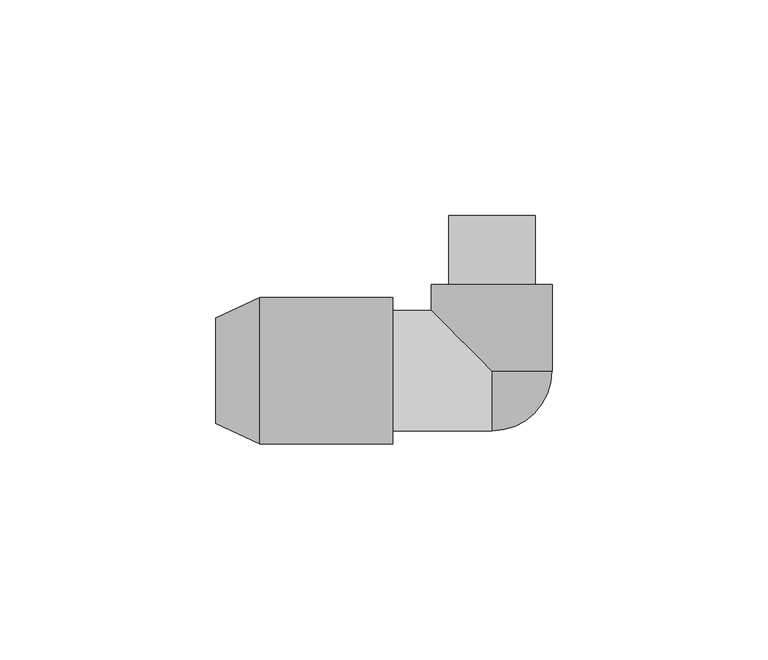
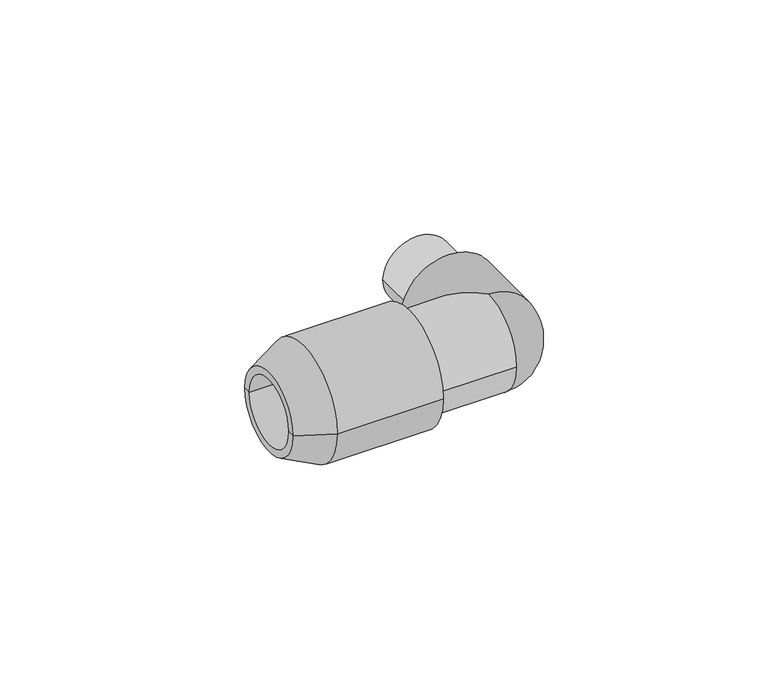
"""IFC4 building model written with IfcOpenShell, lengths in millimetres: pipe fitting geometry."""

from ifc_helpers import new_model, si_unit, point, frame, origin, origin_2d, place, context, project, spatial, polyline, circle_curve, ellipse_curve, trimmed, segment, composite_curve, outline, extrude, source, transform, mapped, element, save
from ifc_brep_helpers import plane_surface, cylinder_surface, revolved_surface, advanced_brep


def pipe_fitting_1bc5d1c2(model_context):
    return source(origin(), model_context, "Body", "SolidModel", [
        advanced_brep(
        [(-23.0, -17.0, 0.0), (-23.0, 17.0, 0.0), (-23.0, 0.0, 0.0), (-53.8135921, -17.0, 0.0), (-53.8135921, 17.0, 0.0), (-64.0, -12.25, 0.0), (-64.0, 12.25, 0.0), (-35.0, -10.0, 0.0), (-35.0, 10.0, 0.0), (-64.0, 10.0, 0.0), (-64.0, -10.0, 0.0), (-35.0, 0.0, 0.0)],
        [
            (0, 1, circle_curve(frame((-23.0, 0.0, 0.0), z_axis=(1.0, 0.0, 0.0), x_axis=(0.0, 1.0, 0.0)), 17.0)),
            (1, 2),
            (2, 0),
            (1, 0, circle_curve(frame((-23.0, 0.0, 0.0), z_axis=(1.0, 0.0, 0.0), x_axis=(0.0, 1.0, 0.0)), 17.0)),
            (3, 4, circle_curve(frame((-53.8135921, 0.0, 0.0), z_axis=(1.0, 0.0, 0.0), x_axis=(0.0, 1.0, 0.0)), 17.0)),
            (4, 1),
            (0, 3),
            (4, 3, circle_curve(frame((-53.8135921, 0.0, 0.0), z_axis=(1.0, 0.0, 0.0), x_axis=(0.0, 1.0, 0.0)), 17.0)),
            (5, 6, circle_curve(frame((-64.0, 0.0, 0.0), z_axis=(1.0, 0.0, 0.0), x_axis=(0.0, 1.0, 0.0)), 12.25)),
            (6, 4),
            (3, 5),
            (6, 5, circle_curve(frame((-64.0, 0.0, 0.0), z_axis=(1.0, 0.0, 0.0), x_axis=(0.0, 1.0, 0.0)), 12.25)),
            (7, 8, circle_curve(frame((-35.0, 0.0, 0.0), z_axis=(1.0, 0.0, 0.0), x_axis=(0.0, 1.0, 0.0)), 10.0)),
            (8, 9),
            (9, 10, circle_curve(frame((-64.0, 0.0, 0.0), z_axis=(-1.0, 0.0, 0.0), x_axis=(0.0, 1.0, 0.0)), 10.0)),
            (10, 7),
            (8, 7, circle_curve(frame((-35.0, 0.0, 0.0), z_axis=(1.0, 0.0, 0.0), x_axis=(0.0, 1.0, 0.0)), 10.0)),
            (10, 9, circle_curve(frame((-64.0, 0.0, 0.0), z_axis=(-1.0, 0.0, 0.0), x_axis=(0.0, 1.0, 0.0)), 10.0)),
            (11, 8),
            (7, 11),
            (9, 6),
            (5, 10),
        ],
        [
            plane_surface(frame((-23.0, 0.0, 0.0), z_axis=(1.0, 0.0, 0.0), x_axis=(0.0, 1.0, 0.0))),
            cylinder_surface(frame((-74.0, 0.0, 0.0), z_axis=(-1.0, 0.0, 0.0), x_axis=(0.0, 1.0, 0.0)), 17.0),
            revolved_surface(polyline([(-53.8135921, 17.0, 0.0), (-64.0, 12.25, 0.0)]), (-74.0, 0.0, 0.0), (-1.0, 0.0, 0.0)),
            revolved_surface(polyline([(-64.0, 10.0, 0.0), (-35.0, 10.0, 0.0)]), (-74.0, 0.0, 0.0), (-1.0, 0.0, 0.0)),
            plane_surface(frame((-35.0, 0.0, 0.0), z_axis=(-1.0, 0.0, 0.0), x_axis=(0.0, 1.0, 0.0))),
            plane_surface(frame((-64.0, 0.0, 0.0), z_axis=(-1.0, 0.0, 0.0), x_axis=(0.0, 1.0, 0.0))),
        ],
        [
            (0, [[1, 2, 3]]),
            (0, [[4, -3, -2]]),
            (1, [[5, 6, -1, 7]]),
            (1, [[8, -7, -4, -6]]),
            (2, [[9, 10, -5, 11]]),
            (2, [[12, -11, -8, -10]]),
            (3, [[13, 14, 15, 16]]),
            (3, [[17, -16, 18, -14]]),
            (4, [[19, -13, 20]]),
            (4, [[-20, -17, -19]]),
            (5, [[-15, 21, -9, 22]]),
            (5, [[-18, -22, -12, -21]]),
        ],
    ),
        extrude(outline(composite_curve([segment(trimmed(circle_curve(origin_2d(), 10.0), [point((0.0, 10.0))], [point((0.0, -10.0))], False, "CARTESIAN"), True, "CONTINUOUS"), segment(trimmed(circle_curve(origin_2d(), 10.0), [point((0.0, -10.0))], [point((0.0, 10.0))], False, "CARTESIAN"), True, "CONTINUOUS")], self_intersect=False)), frame((0.0, 20.0, 0.0), z_axis=(0.0, 1.0, 0.0), x_axis=(0.0, 0.0, 1.0)), (0.0, 0.0, 1.0), 16.0),
        advanced_brep(
        [(-14.0, 20.0, 0.0), (14.0, 20.0, 0.0), (-14.0, 14.0, 0.0), (0.0, 0.0, 14.0), (14.0, 0.0, 0.0), (0.0, 0.0, -14.0), (-23.0, 14.0, 0.0), (-23.0, -14.0, 0.0), (0.0, -14.0, 0.0)],
        [
            (0, 1, circle_curve(frame((0.0, 20.0, 0.0), z_axis=(0.0, 1.0, 0.0), x_axis=(1.0, 0.0, 0.0)), 14.0)),
            (1, 0, circle_curve(frame((0.0, 20.0, 0.0), z_axis=(0.0, 1.0, 0.0), x_axis=(1.0, 0.0, 0.0)), 14.0)),
            (0, 2),
            (2, 3, ellipse_curve(frame((0.0, 0.0, 0.0), z_axis=(0.7071067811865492, 0.7071067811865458, 0.0), x_axis=(-0.7071067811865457, 0.7071067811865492, 0.0)), 19.7989899, 14.0)),
            (3, 4, circle_curve(frame((0.0, 0.0, 0.0), z_axis=(0.0, 1.0, 0.0), x_axis=(1.0, 0.0, 0.0)), 14.0)),
            (4, 1),
            (4, 5, circle_curve(frame((0.0, 0.0, 0.0), z_axis=(0.0, 1.0, 0.0), x_axis=(1.0, 0.0, 0.0)), 14.0)),
            (5, 2, ellipse_curve(frame((0.0, 0.0, 0.0), z_axis=(0.7071067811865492, 0.7071067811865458, 0.0), x_axis=(-0.7071067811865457, 0.7071067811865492, 0.0)), 19.7989899, 14.0)),
            (6, 7, circle_curve(frame((-23.0, 0.0, 0.0), z_axis=(-1.0, 0.0, 0.0), x_axis=(0.0, -1.0, 0.0)), 14.0)),
            (7, 6, circle_curve(frame((-23.0, 0.0, 0.0), z_axis=(-1.0, 0.0, 0.0), x_axis=(0.0, -1.0, 0.0)), 14.0)),
            (7, 8),
            (8, 3, circle_curve(frame((0.0, 0.0, 0.0), z_axis=(-1.0, 0.0, 0.0), x_axis=(0.0, -1.0, 0.0)), 14.0)),
            (2, 6),
            (5, 8, circle_curve(frame((0.0, 0.0, 0.0), z_axis=(-1.0, 0.0, 0.0), x_axis=(0.0, -1.0, 0.0)), 14.0)),
        ],
        [
            plane_surface(frame((0.0, 20.0, 0.0), z_axis=(0.0, 1.0, 0.0), x_axis=(0.0, 0.0, 1.0))),
            cylinder_surface(frame((0.0, 20.0, 0.0), z_axis=(0.0, 1.0, 0.0), x_axis=(1.0, 0.0, 0.0)), 14.0),
            plane_surface(frame((-23.0, 0.0, 0.0), z_axis=(-1.0, 0.0, 0.0), x_axis=(0.0, 0.0, 1.0))),
            cylinder_surface(frame((0.0, 0.0, 0.0), z_axis=(1.0, 0.0, 0.0), x_axis=(0.0, -1.0, 0.0)), 14.0),
            revolved_surface(trimmed(ellipse_curve(frame((0.0, 0.0, 0.0), z_axis=(0.0, -1.0, 0.0), x_axis=(1.0, 0.0, 0.0)), 14.0, 14.0), [point((0.0, 0.0, -14.0))], [point((0.0, 0.0, 14.0))], True, "CARTESIAN"), (0.0, 0.0, 35.7080973), (0.0, 0.0, 1.0)),
        ],
        [
            (0, [[1, 2]]),
            (1, [[-1, 3, 4, 5, 6]]),
            (1, [[-2, -6, 7, 8, -3]]),
            (2, [[9, 10]]),
            (3, [[-10, 11, 12, -4, 13]]),
            (3, [[-9, -13, -8, 14, -11]]),
            (4, [[-5, -12, -14, -7]]),
        ],
    ),
    ])


if __name__ == "__main__":
    model = new_model("IFC4")
    model_context = context("Model", 3, world=origin())
    ifc_project = project(units=[si_unit("LENGTHUNIT", "METRE", prefix="MILLI")], contexts=[model_context])
    site = spatial("IfcSite", under=ifc_project)
    building = spatial("IfcBuilding", under=site)
    placement = place(None, origin())
    pipe_fitting_shape = pipe_fitting_1bc5d1c2(model_context)
    element("IfcPipeFitting", 1, ObjectType="NLRS_50_PIF_UN_PushFit overgangsknie 90° met buitendraad_geb : DN12-20-R1\" / d16-25-R1\"", at=placement, inside=building, context=model_context, shape_type="MappedRepresentation", body=[
        mapped(pipe_fitting_shape, transform((0.0, 0.0, 0.0), x_axis=(1.0, 0.0, 0.0), y_axis=(0.0, 1.0, 0.0), z_axis=(0.0, 0.0, 1.0))),
    ])
    save(model, "model.ifc")
